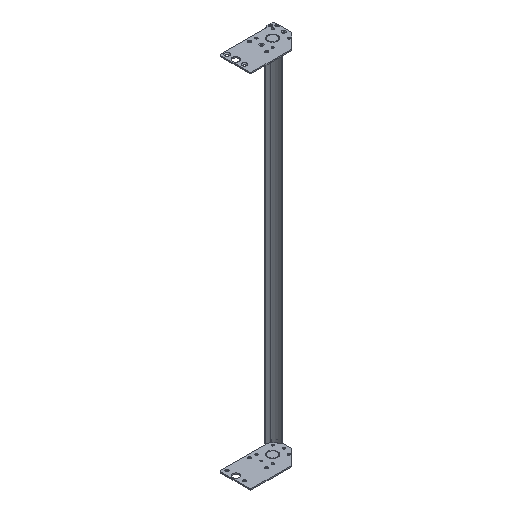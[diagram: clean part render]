
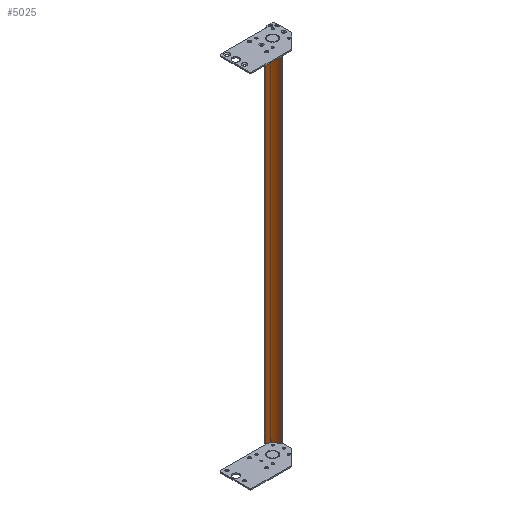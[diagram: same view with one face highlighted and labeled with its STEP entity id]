
A CAD part, isometric view. The second image highlights one B-rep face of the part: STEP entity #5025.
In plain terms, the highlighted cylindrical face has radius 40.64 mm (diameter 81.28 mm), a partial arc.
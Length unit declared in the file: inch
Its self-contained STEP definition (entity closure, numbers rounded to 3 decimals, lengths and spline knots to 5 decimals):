
#4732=CARTESIAN_POINT('',(-1.52,1.63,-20.118));
#4733=DIRECTION('',(0.,0.,-1.));
#4734=DIRECTION('',(0.914,-0.405,0.));
#4735=AXIS2_PLACEMENT_3D('',#4732,#4733,#4734);
#4779=CARTESIAN_POINT('',(-1.52,1.63,20.118));
#4780=DIRECTION('',(0.,0.,-1.));
#4781=DIRECTION('',(0.914,-0.405,0.));
#4782=AXIS2_PLACEMENT_3D('',#4779,#4780,#4781);
#4810=DIRECTION('',(0.,0.,1.));
#4811=VECTOR('',#4810,40.236);
#4812=CARTESIAN_POINT('',(-1.00032,0.11675,-20.118));
#4813=LINE('',#4812,#4811);
#4814=DIRECTION('',(0.,0.,1.));
#4815=VECTOR('',#4814,40.236);
#4816=CARTESIAN_POINT('',(-0.05742,0.98126,-20.118));
#4817=LINE('',#4816,#4815);
#4846=CARTESIAN_POINT('',(-0.05742,0.98126,-20.118));
#4847=VERTEX_POINT('',#4846);
#4848=CARTESIAN_POINT('',(-1.00032,0.11675,-20.118));
#4849=VERTEX_POINT('',#4848);
#4866=CARTESIAN_POINT('',(-0.05742,0.98126,20.118));
#4867=VERTEX_POINT('',#4866);
#4868=CARTESIAN_POINT('',(-1.00032,0.11675,20.118));
#4869=VERTEX_POINT('',#4868);
#5013=CARTESIAN_POINT('',(-1.52,1.63,-20.118));
#5014=DIRECTION('',(0.,0.,1.));
#5015=DIRECTION('',(1.,0.,0.));
#5016=AXIS2_PLACEMENT_3D('',#5013,#5014,#5015);
#5017=CYLINDRICAL_SURFACE('',#5016,1.6);
#5018=ORIENTED_EDGE('',*,*,#4883,.F.);
#5020=ORIENTED_EDGE('',*,*,#5019,.T.);
#5021=ORIENTED_EDGE('',*,*,#4939,.T.);
#5022=ORIENTED_EDGE('',*,*,#5006,.F.);
#5023=EDGE_LOOP('',(#5018,#5020,#5021,#5022));
#5024=FACE_OUTER_BOUND('',#5023,.F.);
#4736=CIRCLE('',#4735,1.6);
#4783=CIRCLE('',#4782,1.6);
#4883=EDGE_CURVE('',#4847,#4849,#4736,.T.);
#4939=EDGE_CURVE('',#4867,#4869,#4783,.T.);
#5006=EDGE_CURVE('',#4849,#4869,#4813,.T.);
#5019=EDGE_CURVE('',#4847,#4867,#4817,.T.);
#5025=ADVANCED_FACE('',(#5024),#5017,.F.);
